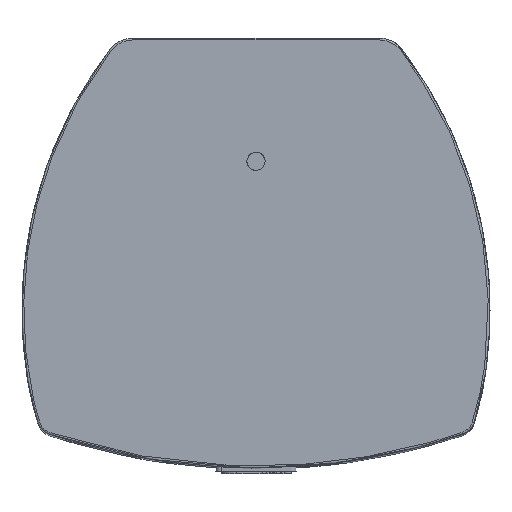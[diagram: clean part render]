
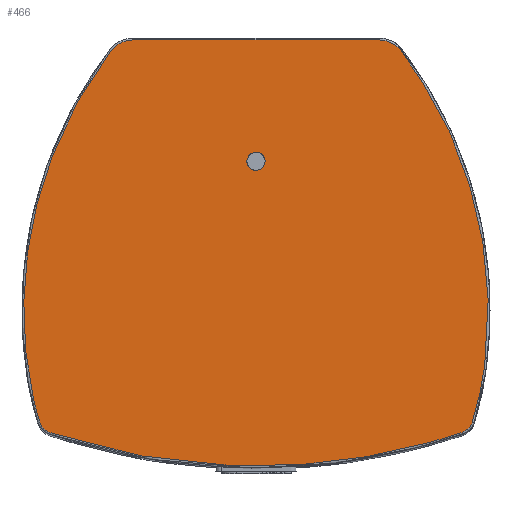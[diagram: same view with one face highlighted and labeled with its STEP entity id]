
A CAD part, top view. The second image highlights one B-rep face of the part: STEP entity #466.
In plain terms, the highlighted planar face has unit normal (0, 0, 1).
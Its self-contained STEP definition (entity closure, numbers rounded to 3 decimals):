
#180=FACE_BOUND('',#647,.T.);
#186=PLANE('',#2179);
#466=ADVANCED_FACE('',(#556,#180),#186,.T.);
#556=FACE_OUTER_BOUND('',#646,.T.);
#646=EDGE_LOOP('',(#748,#749));
#647=EDGE_LOOP('',(#750));
#748=ORIENTED_EDGE('',*,*,#1140,.T.);
#749=ORIENTED_EDGE('',*,*,#1139,.T.);
#750=ORIENTED_EDGE('',*,*,#1138,.T.);
#1138=EDGE_CURVE('',#1748,#1748,#1518,.T.);
#1139=EDGE_CURVE('',#1750,#1749,#1519,.T.);
#1140=EDGE_CURVE('',#1749,#1750,#1520,.T.);
#1518=(
BOUNDED_CURVE()
B_SPLINE_CURVE(2,(#2434,#2435,#2436,#2437,#2438,#2439,#2440,#2441,#2442),
 .UNSPECIFIED.,.T.,.F.)
B_SPLINE_CURVE_WITH_KNOTS((3,2,2,2,3),(-15.708,-11.781,
-7.854,-3.927,0.),.UNSPECIFIED.)
CURVE()
GEOMETRIC_REPRESENTATION_ITEM()
RATIONAL_B_SPLINE_CURVE((1.,0.707,1.,0.707,1.,0.707,
1.,0.707,1.))
REPRESENTATION_ITEM('')
);
#1519=(
BOUNDED_CURVE()
B_SPLINE_CURVE(3,(#2443,#2444,#2445,#2446,#2447,#2448,#2449,#2450,#2451,
#2452,#2453,#2454,#2455,#2456,#2457,#2458,#2459,#2460,#2461,#2462,#2463,
#2464,#2465,#2466,#2467,#2468,#2469,#2470,#2471,#2472,#2473,#2474,#2475,
#2476,#2477,#2478,#2479),.UNSPECIFIED.,.F.,.F.)
B_SPLINE_CURVE_WITH_KNOTS((4,3,1,3,3,3,3,1,3,3,3,3,1,3,4),(0.,
6.898,54.601,102.303,109.194,115.027,
119.316,177.164,235.012,239.301,245.134,
252.025,299.727,347.429,354.328),
 .UNSPECIFIED.)
CURVE()
GEOMETRIC_REPRESENTATION_ITEM()
RATIONAL_B_SPLINE_CURVE((1.,1.,1.,1.,1.,1.,1.,
1.,1.,1.,1.,1.,1.,1.,1.,1.,1.,1.,1.,1.,1.,1.,1.,1.,1.,1.,
1.,1.,1.,1.,1.,1.,1.,1.,1.,1.,1.))
REPRESENTATION_ITEM('')
);
#1520=(
BOUNDED_CURVE()
B_SPLINE_CURVE(1,(#2480,#2481),.UNSPECIFIED.,.F.,.F.)
B_SPLINE_CURVE_WITH_KNOTS((2,2),(0.,68.),
 .UNSPECIFIED.)
CURVE()
GEOMETRIC_REPRESENTATION_ITEM()
RATIONAL_B_SPLINE_CURVE((1.,1.))
REPRESENTATION_ITEM('')
);
#1748=VERTEX_POINT('',#2431);
#1749=VERTEX_POINT('',#2432);
#1750=VERTEX_POINT('',#2433);
#2179=AXIS2_PLACEMENT_3D('',#2430,#2204,$);
#2204=DIRECTION('',(0.,0.,1.));
#2430=CARTESIAN_POINT('',(80.75,74.145,116.001));
#2431=CARTESIAN_POINT('',(2.5,25.32,116.001));
#2432=CARTESIAN_POINT('',(34.,58.82,116.001));
#2433=CARTESIAN_POINT('',(-34.,58.82,116.001));
#2434=CARTESIAN_POINT('',(2.5,25.32,116.001));
#2435=CARTESIAN_POINT('',(2.5,22.82,116.001));
#2436=CARTESIAN_POINT('',(0.,22.82,116.001));
#2437=CARTESIAN_POINT('',(-2.5,22.82,116.001));
#2438=CARTESIAN_POINT('',(-2.5,25.32,116.001));
#2439=CARTESIAN_POINT('',(-2.5,27.82,116.001));
#2440=CARTESIAN_POINT('',(0.,27.82,116.001));
#2441=CARTESIAN_POINT('',(2.5,27.82,116.001));
#2442=CARTESIAN_POINT('',(2.5,25.32,116.001));
#2443=CARTESIAN_POINT('',(-34.,58.82,116.001));
#2444=CARTESIAN_POINT('',(-36.305,58.835,116.001));
#2445=CARTESIAN_POINT('',(-38.58,57.708,116.001));
#2446=CARTESIAN_POINT('',(-39.966,55.865,116.001));
#2447=CARTESIAN_POINT('',(-49.613,43.224,116.001));
#2448=CARTESIAN_POINT('',(-63.676,13.974,116.001));
#2449=CARTESIAN_POINT('',(-65.147,-18.448,116.001));
#2450=CARTESIAN_POINT('',(-62.639,-34.151,116.001));
#2451=CARTESIAN_POINT('',(-62.279,-36.42,116.001));
#2452=CARTESIAN_POINT('',(-61.82,-38.673,116.001));
#2453=CARTESIAN_POINT('',(-61.265,-40.901,116.001));
#2454=CARTESIAN_POINT('',(-60.794,-42.788,116.001));
#2455=CARTESIAN_POINT('',(-60.278,-44.663,116.001));
#2456=CARTESIAN_POINT('',(-59.715,-46.524,116.001));
#2457=CARTESIAN_POINT('',(-59.31,-47.9,116.001));
#2458=CARTESIAN_POINT('',(-58.203,-49.041,116.001));
#2459=CARTESIAN_POINT('',(-56.841,-49.488,116.001));
#2460=CARTESIAN_POINT('',(-38.564,-55.636,116.001));
#2461=CARTESIAN_POINT('',(0.,-61.926,116.001));
#2462=CARTESIAN_POINT('',(38.564,-55.636,116.001));
#2463=CARTESIAN_POINT('',(56.841,-49.488,116.001));
#2464=CARTESIAN_POINT('',(58.203,-49.041,116.001));
#2465=CARTESIAN_POINT('',(59.31,-47.9,116.001));
#2466=CARTESIAN_POINT('',(59.715,-46.524,116.001));
#2467=CARTESIAN_POINT('',(60.278,-44.663,116.001));
#2468=CARTESIAN_POINT('',(60.795,-42.788,116.001));
#2469=CARTESIAN_POINT('',(61.265,-40.901,116.001));
#2470=CARTESIAN_POINT('',(61.82,-38.673,116.001));
#2471=CARTESIAN_POINT('',(62.279,-36.42,116.001));
#2472=CARTESIAN_POINT('',(62.639,-34.151,116.001));
#2473=CARTESIAN_POINT('',(65.148,-18.448,116.001));
#2474=CARTESIAN_POINT('',(63.677,13.974,116.001));
#2475=CARTESIAN_POINT('',(49.614,43.224,116.001));
#2476=CARTESIAN_POINT('',(39.966,55.865,116.001));
#2477=CARTESIAN_POINT('',(38.581,57.708,116.001));
#2478=CARTESIAN_POINT('',(36.306,58.835,116.001));
#2479=CARTESIAN_POINT('',(34.,58.82,116.001));
#2480=CARTESIAN_POINT('',(34.,58.82,116.001));
#2481=CARTESIAN_POINT('',(-34.,58.82,116.001));
